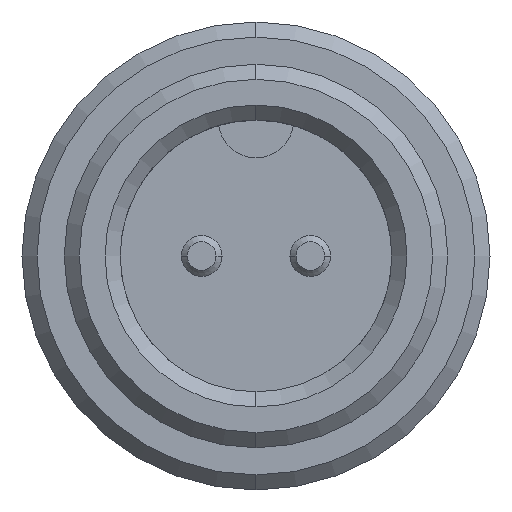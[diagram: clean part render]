
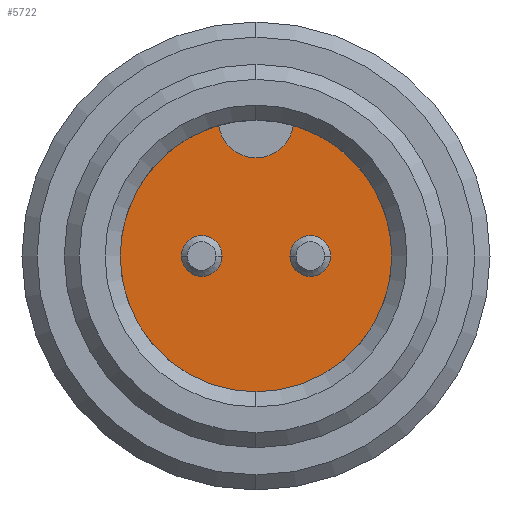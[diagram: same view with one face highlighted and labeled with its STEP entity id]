
A CAD part, left-side view. The second image highlights one B-rep face of the part: STEP entity #5722.
In plain terms, the highlighted planar face has unit normal (-1, 0, 0) as drawn and (1, 0, 0) by its records, which use the part's own axes.
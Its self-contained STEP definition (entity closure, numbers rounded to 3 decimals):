
#3825=CARTESIAN_POINT('',(21.18,0.,0.));
#3826=DIRECTION('',(-1.,0.,0.));
#3827=DIRECTION('',(0.,0.,1.));
#3828=AXIS2_PLACEMENT_3D('',#3825,#3826,#3827);
#3839=CARTESIAN_POINT('',(21.18,0.,0.));
#3840=DIRECTION('',(1.,0.,0.));
#3841=DIRECTION('',(0.,0.,1.));
#3842=AXIS2_PLACEMENT_3D('',#3839,#3840,#3841);
#3853=CARTESIAN_POINT('',(21.18,0.,-4.5));
#3854=DIRECTION('',(1.,0.,0.));
#3855=DIRECTION('',(0.,0.99,0.139));
#3856=AXIS2_PLACEMENT_3D('',#3853,#3854,#3855);
#3858=CARTESIAN_POINT('',(21.18,-1.8,0.));
#3859=DIRECTION('',(1.,0.,0.));
#3860=DIRECTION('',(0.,1.,0.));
#3861=AXIS2_PLACEMENT_3D('',#3858,#3859,#3860);
#3863=CARTESIAN_POINT('',(21.18,-1.8,0.));
#3864=DIRECTION('',(1.,0.,0.));
#3865=DIRECTION('',(0.,-1.,0.));
#3866=AXIS2_PLACEMENT_3D('',#3863,#3864,#3865);
#3868=CARTESIAN_POINT('',(21.18,1.8,0.));
#3869=DIRECTION('',(1.,0.,0.));
#3870=DIRECTION('',(0.,1.,0.));
#3871=AXIS2_PLACEMENT_3D('',#3868,#3869,#3870);
#3873=CARTESIAN_POINT('',(21.18,1.8,0.));
#3874=DIRECTION('',(1.,0.,0.));
#3875=DIRECTION('',(0.,-1.,0.));
#3876=AXIS2_PLACEMENT_3D('',#3873,#3874,#3875);
#4185=CARTESIAN_POINT('',(21.18,0.,4.5));
#4186=CARTESIAN_POINT('',(21.18,-1.238,-4.326));
#4187=VERTEX_POINT('',#4185);
#4188=VERTEX_POINT('',#4186);
#4189=CARTESIAN_POINT('',(21.18,1.238,-4.326));
#4190=VERTEX_POINT('',#4189);
#4191=CARTESIAN_POINT('',(21.18,-1.125,0.));
#4192=CARTESIAN_POINT('',(21.18,-2.475,0.));
#4193=VERTEX_POINT('',#4191);
#4194=VERTEX_POINT('',#4192);
#4195=CARTESIAN_POINT('',(21.18,2.475,0.));
#4196=CARTESIAN_POINT('',(21.18,1.125,0.));
#4197=VERTEX_POINT('',#4195);
#4198=VERTEX_POINT('',#4196);
#5699=CARTESIAN_POINT('',(21.18,0.,0.));
#5700=DIRECTION('',(1.,0.,0.));
#5701=DIRECTION('',(0.,0.,-1.));
#5702=AXIS2_PLACEMENT_3D('',#5699,#5700,#5701);
#5703=PLANE('',#5702);
#5704=ORIENTED_EDGE('',*,*,#5689,.F.);
#5705=ORIENTED_EDGE('',*,*,#5675,.T.);
#5707=ORIENTED_EDGE('',*,*,#5706,.T.);
#5708=EDGE_LOOP('',(#5704,#5705,#5707));
#5709=FACE_OUTER_BOUND('',#5708,.F.);
#5711=ORIENTED_EDGE('',*,*,#5710,.T.);
#5713=ORIENTED_EDGE('',*,*,#5712,.T.);
#5714=EDGE_LOOP('',(#5711,#5713));
#5715=FACE_BOUND('',#5714,.F.);
#5717=ORIENTED_EDGE('',*,*,#5716,.T.);
#5719=ORIENTED_EDGE('',*,*,#5718,.T.);
#5720=EDGE_LOOP('',(#5717,#5719));
#5721=FACE_BOUND('',#5720,.F.);
#3829=CIRCLE('',#3828,4.5);
#3843=CIRCLE('',#3842,4.5);
#3857=CIRCLE('',#3856,1.25);
#3862=CIRCLE('',#3861,0.675);
#3867=CIRCLE('',#3866,0.675);
#3872=CIRCLE('',#3871,0.675);
#3877=CIRCLE('',#3876,0.675);
#5675=EDGE_CURVE('',#4187,#4190,#3829,.T.);
#5689=EDGE_CURVE('',#4187,#4188,#3843,.T.);
#5706=EDGE_CURVE('',#4190,#4188,#3857,.T.);
#5710=EDGE_CURVE('',#4193,#4194,#3862,.T.);
#5712=EDGE_CURVE('',#4194,#4193,#3867,.T.);
#5716=EDGE_CURVE('',#4197,#4198,#3872,.T.);
#5718=EDGE_CURVE('',#4198,#4197,#3877,.T.);
#5722=ADVANCED_FACE('',(#5709,#5715,#5721),#5703,.T.);
